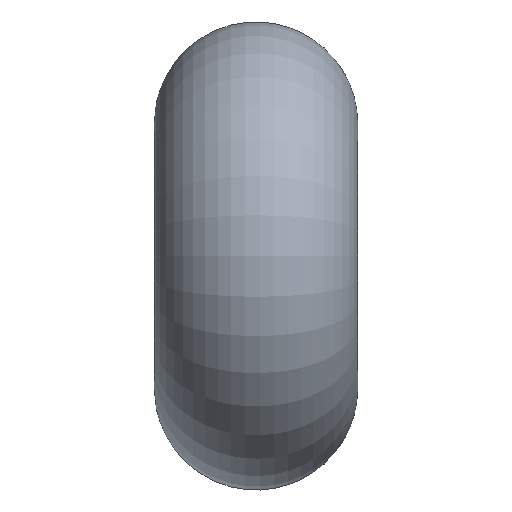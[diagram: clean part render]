
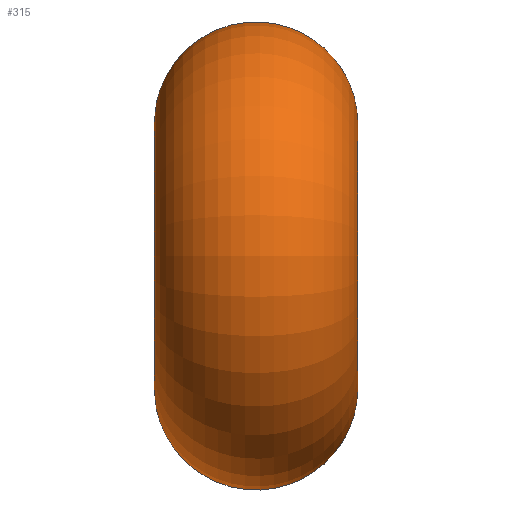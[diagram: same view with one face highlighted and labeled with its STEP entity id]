
A CAD part, left-side view. The second image highlights one B-rep face of the part: STEP entity #315.
In plain terms, the highlighted toroidal (fillet/blend) face has major radius 3.25 mm and minor radius 2.5 mm.
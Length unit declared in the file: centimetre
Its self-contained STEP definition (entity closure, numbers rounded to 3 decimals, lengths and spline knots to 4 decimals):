
#195=CARTESIAN_POINT('',(0.4904,0.0284,-0.2988));
#196=VERTEX_POINT('',#195);
#231=CARTESIAN_POINT('',(0.4904,0.0283,-0.2988));
#232=CARTESIAN_POINT('',(0.4841,0.0409,-0.311));
#233=CARTESIAN_POINT('',(0.4728,0.071,-0.3284));
#234=CARTESIAN_POINT('',(0.4606,0.1221,-0.3281));
#235=CARTESIAN_POINT('',(0.4548,0.168,-0.302));
#236=CARTESIAN_POINT('',(0.4575,0.2009,-0.2556));
#237=CARTESIAN_POINT('',(0.471,0.2164,-0.1972));
#238=CARTESIAN_POINT('',(0.4901,0.2124,-0.1534));
#239=CARTESIAN_POINT('',(0.5098,0.1994,-0.1214));
#240=CARTESIAN_POINT('',(0.5251,0.1843,-0.1026));
#241=CARTESIAN_POINT('',(0.5409,0.1609,-0.0893));
#242=CARTESIAN_POINT('',(0.5521,0.1385,-0.0826));
#243=CARTESIAN_POINT('',(0.5607,0.1144,-0.0797));
#244=CARTESIAN_POINT('',(0.5662,0.0895,-0.0808));
#245=CARTESIAN_POINT('',(0.5681,0.0645,-0.0878));
#246=CARTESIAN_POINT('',(0.5657,0.034,-0.1061));
#247=CARTESIAN_POINT('',(0.5545,0.0042,-0.1426));
#248=CARTESIAN_POINT('',(0.5335,-0.0113,-0.198));
#249=CARTESIAN_POINT('',(0.5106,-0.0038,-0.2553));
#250=CARTESIAN_POINT('',(0.4967,0.0158,-0.2866));
#251=CARTESIAN_POINT('',(0.4904,0.0283,-0.2988));
#252=B_SPLINE_CURVE_WITH_KNOTS('',3,(#231,#232,#233,#234,#235,#236,#237,#238,#239,#240,#241,#242,#243,#244,#245,#246,#247,#248,#249,#250,#251),.UNSPECIFIED.,.T.,.U.,(4,1,1,1,1,1,1,1,1,1,1,1,1,1,1,1,1,1,4),(0.4965,0.5674,0.6383,0.7093,0.7802,0.8511,0.9221,0.9398,0.993,1.0284,1.0639,1.0994,1.1348,1.1703,1.2058,1.2767,1.3476,1.4185,1.4895),.UNSPECIFIED.);
#253=EDGE_CURVE('',#196,#196,#252,.T.);
#258=CARTESIAN_POINT('',(0.0,0.0475,0.0));
#259=DIRECTION('',(0.0,1.0,0.0));
#260=DIRECTION('',(1.0,0.0,0.0));
#261=AXIS2_PLACEMENT_3D('',#258,#259,#260);
#262=TOROIDAL_SURFACE('',#261,0.325,0.25);
#263=CARTESIAN_POINT('',(0.4904,0.0666,0.2988));
#264=VERTEX_POINT('',#263);
#265=CARTESIAN_POINT('',(0.4904,0.0667,0.2988));
#266=CARTESIAN_POINT('',(0.4841,0.0541,0.311));
#267=CARTESIAN_POINT('',(0.4728,0.024,0.3284));
#268=CARTESIAN_POINT('',(0.4606,-0.0271,0.3281));
#269=CARTESIAN_POINT('',(0.4548,-0.073,0.302));
#270=CARTESIAN_POINT('',(0.4575,-0.1059,0.2555));
#271=CARTESIAN_POINT('',(0.4709,-0.1214,0.1973));
#272=CARTESIAN_POINT('',(0.4965,-0.1161,0.1385));
#273=CARTESIAN_POINT('',(0.5229,-0.0926,0.1045));
#274=CARTESIAN_POINT('',(0.5409,-0.0659,0.0894));
#275=CARTESIAN_POINT('',(0.5522,-0.0435,0.0827));
#276=CARTESIAN_POINT('',(0.5607,-0.0194,0.0797));
#277=CARTESIAN_POINT('',(0.5662,0.0055,0.0808));
#278=CARTESIAN_POINT('',(0.5681,0.0306,0.0878));
#279=CARTESIAN_POINT('',(0.5663,0.0534,0.1016));
#280=CARTESIAN_POINT('',(0.5612,0.073,0.1207));
#281=CARTESIAN_POINT('',(0.551,0.0933,0.1518));
#282=CARTESIAN_POINT('',(0.5264,0.1118,0.2166));
#283=CARTESIAN_POINT('',(0.503,0.0918,0.2744));
#284=CARTESIAN_POINT('',(0.4904,0.0667,0.2988));
#285=B_SPLINE_CURVE_WITH_KNOTS('',3,(#265,#266,#267,#268,#269,#270,#271,#272,#273,#274,#275,#276,#277,#278,#279,#280,#281,#282,#283,#284),.UNSPECIFIED.,.T.,.U.,(4,1,1,1,1,1,1,1,1,1,1,1,1,1,1,1,1,4),(0.4965,0.5674,0.6383,0.7093,0.7802,0.8511,0.9221,0.993,1.0284,1.0639,1.0994,1.1348,1.1703,1.2058,1.2412,1.2767,1.3476,1.4895),.UNSPECIFIED.);
#286=EDGE_CURVE('',#264,#264,#285,.T.);
#287=ORIENTED_EDGE('',*,*,#286,.F.);
#288=EDGE_LOOP('',(#287));
#289=FACE_OUTER_BOUND('',#288,.T.);
#290=CARTESIAN_POINT('',(0.325,-0.2025,0.));
#291=VERTEX_POINT('',#290);
#292=CARTESIAN_POINT('',(0.0,-0.2025,0.0));
#293=DIRECTION('',(0.0,1.0,0.0));
#294=DIRECTION('',(-1.0,0.0,0.0));
#295=AXIS2_PLACEMENT_3D('',#292,#293,#294);
#296=CIRCLE('',#295,0.325);
#297=EDGE_CURVE('',#291,#291,#296,.T.);
#298=ORIENTED_EDGE('',*,*,#297,.T.);
#299=EDGE_LOOP('',(#298));
#300=FACE_BOUND('',#299,.T.);
#301=CARTESIAN_POINT('',(0.325,0.2975,0.));
#302=VERTEX_POINT('',#301);
#303=CARTESIAN_POINT('',(0.0,0.2975,0.0));
#304=DIRECTION('',(0.0,-1.0,0.0));
#305=DIRECTION('',(-1.0,0.0,0.0));
#306=AXIS2_PLACEMENT_3D('',#303,#304,#305);
#307=CIRCLE('',#306,0.325);
#308=EDGE_CURVE('',#302,#302,#307,.T.);
#309=ORIENTED_EDGE('',*,*,#308,.T.);
#310=EDGE_LOOP('',(#309));
#311=FACE_BOUND('',#310,.T.);
#312=ORIENTED_EDGE('',*,*,#253,.F.);
#313=EDGE_LOOP('',(#312));
#314=FACE_BOUND('',#313,.T.);
#315=ADVANCED_FACE('',(#289,#300,#311,#314),#262,.T.);
